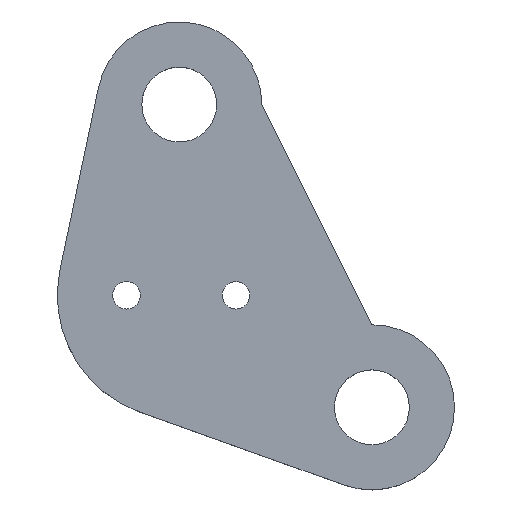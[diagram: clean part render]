
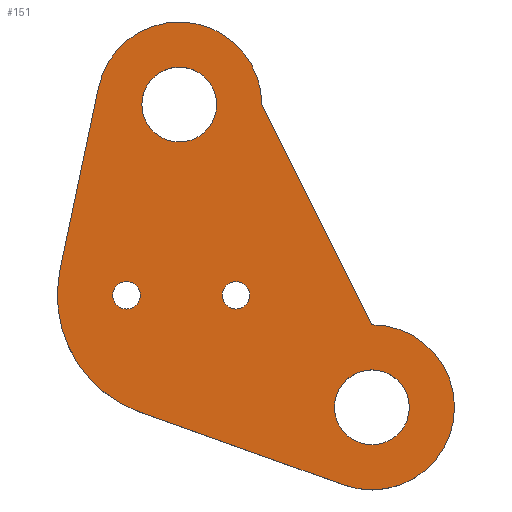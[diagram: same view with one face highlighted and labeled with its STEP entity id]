
A CAD part, top view. The second image highlights one B-rep face of the part: STEP entity #151.
In plain terms, the highlighted planar face has unit normal (0, 0, 1).
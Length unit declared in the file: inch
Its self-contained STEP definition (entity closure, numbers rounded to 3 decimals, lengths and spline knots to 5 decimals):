
#5 = CARTESIAN_POINT ( 'NONE',  ( -1.39646, -0.24646, 0.1 ) ) ;
#7 = ORIENTED_EDGE ( 'NONE', *, *, #229, .T. ) ;
#8 = DIRECTION ( 'NONE',  ( 0.942, -0.337, 0. ) ) ;
#11 = DIRECTION ( 'NONE',  ( 0., 0., 1. ) ) ;
#14 = EDGE_LOOP ( 'NONE', ( #137, #383, #17, #268, #7, #354 ) ) ;
#16 = CARTESIAN_POINT ( 'NONE',  ( -1.05, -0.3, 0.1 ) ) ;
#17 = ORIENTED_EDGE ( 'NONE', *, *, #88, .T. ) ;
#32 = VERTEX_POINT ( 'NONE', #405 ) ;
#33 = AXIS2_PLACEMENT_3D ( 'NONE', #5, #73, #394 ) ;
#37 = DIRECTION ( 'NONE',  ( 1., 0., 0. ) ) ;
#44 = DIRECTION ( 'NONE',  ( 1., 0., 0. ) ) ;
#48 = EDGE_CURVE ( 'NONE', #161, #150, #78, .T. ) ;
#50 = EDGE_LOOP ( 'NONE', ( #87 ) ) ;
#51 = AXIS2_PLACEMENT_3D ( 'NONE', #301, #269, #300 ) ;
#52 = VERTEX_POINT ( 'NONE', #270 ) ;
#53 = CIRCLE ( 'NONE', #33, 0.225 ) ;
#57 = CARTESIAN_POINT ( 'NONE',  ( -1.27205, -0.24646, 0.1 ) ) ;
#63 = CARTESIAN_POINT ( 'NONE',  ( -1.47087, -0.24646, 0.1 ) ) ;
#69 = AXIS2_PLACEMENT_3D ( 'NONE', #220, #11, #44 ) ;
#73 = DIRECTION ( 'NONE',  ( 0., 0., 1. ) ) ;
#78 = CIRCLE ( 'NONE', #267, 0.15 ) ;
#79 = EDGE_CURVE ( 'NONE', #376, #376, #192, .T. ) ;
#80 = CARTESIAN_POINT ( 'NONE',  ( -1.47222, -0.45832, 0.1 ) ) ;
#82 = CARTESIAN_POINT ( 'NONE',  ( -1.25, 0.1, 0.1 ) ) ;
#83 = DIRECTION ( 'NONE',  ( 0., 0., 1. ) ) ;
#85 = DIRECTION ( 'NONE',  ( 0., 0., 1. ) ) ;
#87 = ORIENTED_EDGE ( 'NONE', *, *, #205, .F. ) ;
#88 = EDGE_CURVE ( 'NONE', #297, #344, #53, .T. ) ;
#93 = VECTOR ( 'NONE', #8, 39.37008 ) ;
#96 = AXIS2_PLACEMENT_3D ( 'NONE', #196, #83, #126 ) ;
#99 = EDGE_CURVE ( 'NONE', #344, #362, #425, .T. ) ;
#105 = VECTOR ( 'NONE', #278, 39.37008 ) ;
#119 = LINE ( 'NONE', #244, #105 ) ;
#120 = EDGE_CURVE ( 'NONE', #369, #369, #439, .T. ) ;
#126 = DIRECTION ( 'NONE',  ( 1., 0., 0. ) ) ;
#133 = AXIS2_PLACEMENT_3D ( 'NONE', #391, #356, #228 ) ;
#136 = CARTESIAN_POINT ( 'NONE',  ( -1.47222, -0.45832, 0.1 ) ) ;
#137 = ORIENTED_EDGE ( 'NONE', *, *, #48, .T. ) ;
#142 = FACE_OUTER_BOUND ( 'NONE', #14, .T. ) ;
#148 = FACE_BOUND ( 'NONE', #380, .T. ) ;
#150 = VERTEX_POINT ( 'NONE', #426 ) ;
#151 = ADVANCED_FACE ( 'NONE', ( #238, #148, #154, #382, #142 ), #236, .T. ) ;
#154 = FACE_BOUND ( 'NONE', #348, .T. ) ;
#160 = EDGE_CURVE ( 'NONE', #52, #52, #259, .T. ) ;
#161 = VERTEX_POINT ( 'NONE', #82 ) ;
#179 = DIRECTION ( 'NONE',  ( 0., 0., 1. ) ) ;
#192 = CIRCLE ( 'NONE', #69, 0.025 ) ;
#196 = CARTESIAN_POINT ( 'NONE',  ( -1.4, 0.1, 0.1 ) ) ;
#199 = CARTESIAN_POINT ( 'NONE',  ( -1.4, 0.1, 0.1 ) ) ;
#205 = EDGE_CURVE ( 'NONE', #32, #32, #390, .T. ) ;
#213 = CIRCLE ( 'NONE', #295, 0.15 ) ;
#219 = VERTEX_POINT ( 'NONE', #16 ) ;
#220 = CARTESIAN_POINT ( 'NONE',  ( -1.29705, -0.24646, 0.1 ) ) ;
#221 = EDGE_CURVE ( 'NONE', #219, #161, #408, .T. ) ;
#228 = DIRECTION ( 'NONE',  ( 1., 0., 0. ) ) ;
#229 = EDGE_CURVE ( 'NONE', #362, #219, #213, .T. ) ;
#235 = CARTESIAN_POINT ( 'NONE',  ( -1.05, -0.45, 0.1 ) ) ;
#236 = PLANE ( 'NONE',  #96 ) ;
#238 = FACE_BOUND ( 'NONE', #312, .T. ) ;
#244 = CARTESIAN_POINT ( 'NONE',  ( -1.54677, 0.13097, 0.1 ) ) ;
#259 = CIRCLE ( 'NONE', #51, 0.068 ) ;
#263 = CARTESIAN_POINT ( 'NONE',  ( -1.25, 0.1, 0.1 ) ) ;
#267 = AXIS2_PLACEMENT_3D ( 'NONE', #287, #179, #37 ) ;
#268 = ORIENTED_EDGE ( 'NONE', *, *, #99, .T. ) ;
#269 = DIRECTION ( 'NONE',  ( 0., 0., 1. ) ) ;
#270 = CARTESIAN_POINT ( 'NONE',  ( -0.982, -0.45, 0.1 ) ) ;
#278 = DIRECTION ( 'NONE',  ( -0.206, -0.978, 0. ) ) ;
#279 = CARTESIAN_POINT ( 'NONE',  ( -1.61661, -0.2, 0.1 ) ) ;
#287 = CARTESIAN_POINT ( 'NONE',  ( -1.4, 0.1, 0.1 ) ) ;
#295 = AXIS2_PLACEMENT_3D ( 'NONE', #235, #85, #333 ) ;
#297 = VERTEX_POINT ( 'NONE', #279 ) ;
#298 = ORIENTED_EDGE ( 'NONE', *, *, #160, .F. ) ;
#300 = DIRECTION ( 'NONE',  ( 1., 0., 0. ) ) ;
#301 = CARTESIAN_POINT ( 'NONE',  ( -1.05, -0.45, 0.1 ) ) ;
#311 = ORIENTED_EDGE ( 'NONE', *, *, #79, .F. ) ;
#312 = EDGE_LOOP ( 'NONE', ( #398 ) ) ;
#319 = VECTOR ( 'NONE', #332, 39.37008 ) ;
#332 = DIRECTION ( 'NONE',  ( -0.447, 0.894, 0. ) ) ;
#333 = DIRECTION ( 'NONE',  ( 1., 0., 0. ) ) ;
#344 = VERTEX_POINT ( 'NONE', #136 ) ;
#348 = EDGE_LOOP ( 'NONE', ( #298 ) ) ;
#354 = ORIENTED_EDGE ( 'NONE', *, *, #221, .T. ) ;
#356 = DIRECTION ( 'NONE',  ( 0., 0., 1. ) ) ;
#362 = VERTEX_POINT ( 'NONE', #435 ) ;
#369 = VERTEX_POINT ( 'NONE', #63 ) ;
#376 = VERTEX_POINT ( 'NONE', #57 ) ;
#380 = EDGE_LOOP ( 'NONE', ( #311 ) ) ;
#382 = FACE_BOUND ( 'NONE', #50, .T. ) ;
#383 = ORIENTED_EDGE ( 'NONE', *, *, #428, .T. ) ;
#390 = CIRCLE ( 'NONE', #445, 0.068 ) ;
#391 = CARTESIAN_POINT ( 'NONE',  ( -1.49587, -0.24646, 0.1 ) ) ;
#394 = DIRECTION ( 'NONE',  ( 1., 0., 0. ) ) ;
#398 = ORIENTED_EDGE ( 'NONE', *, *, #120, .F. ) ;
#405 = CARTESIAN_POINT ( 'NONE',  ( -1.332, 0.1, 0.1 ) ) ;
#408 = LINE ( 'NONE', #263, #319 ) ;
#425 = LINE ( 'NONE', #80, #93 ) ;
#426 = CARTESIAN_POINT ( 'NONE',  ( -1.54677, 0.13097, 0.1 ) ) ;
#428 = EDGE_CURVE ( 'NONE', #150, #297, #119, .T. ) ;
#431 = DIRECTION ( 'NONE',  ( 1., 0., 0. ) ) ;
#434 = DIRECTION ( 'NONE',  ( 0., 0., 1. ) ) ;
#435 = CARTESIAN_POINT ( 'NONE',  ( -1.10051, -0.59124, 0.1 ) ) ;
#439 = CIRCLE ( 'NONE', #133, 0.025 ) ;
#445 = AXIS2_PLACEMENT_3D ( 'NONE', #199, #434, #431 ) ;
